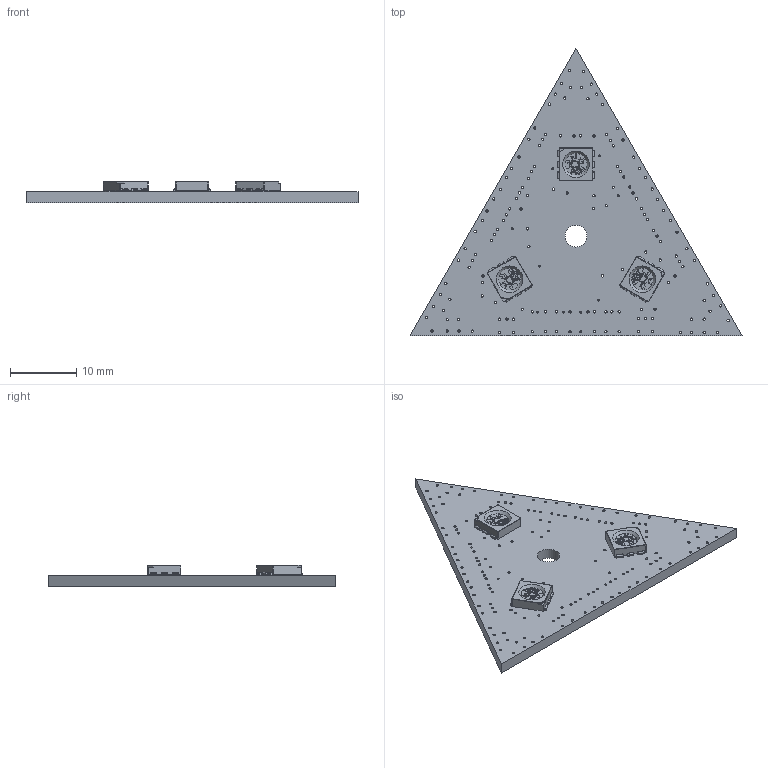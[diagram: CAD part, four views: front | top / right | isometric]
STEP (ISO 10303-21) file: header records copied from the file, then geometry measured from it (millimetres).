
FILE_DESCRIPTION(/* description */ (''),/* implementation_level */ '2;1');
FILE_NAME(/* name */ 'nled-triangle-ap102-pixel-panel-v1b v3.step',/* time_stamp */ '2023-04-13T13:40:29-05:00',/* author */ (''),/* organization */ (''),/* preprocessor_version */ 'ST-DEVELOPER v19.2',/* originating_system */ 'Autodesk Translation Framework v12.4.0.73',/* authorisation */ '');
FILE_SCHEMA (('AUTOMOTIVE_DESIGN { 1 0 10303 214 3 1 1 }'));
Length unit declared in the file: millimetre
Products named in the file (5): nled-triangle-ap102-pixel-panel-v1b; Board; Packages; APA102_5050 (1); APA102_5050
Assembly tree (5 placements, depth 3):
  nled-triangle-ap102-pixel-panel-v1b
    Board
    Packages
      APA102_5050 (1)
      APA102_5050  x2
Bounding box: 50 x 43.3 x 3.19 mm (x, y, z)
Volume: 1860.6 mm3; surface area: 2954 mm2
Topology: 4 solids, 4 shells, 1345 faces, 3786 edges, 2452 vertices
Faces by surface type: plane 650, cylinder 530, torus 138, bspline 24, cone 3
Full cylindrical faces by diameter (mm): 0.08 x39, 0.305 x14, 0.35 x146, 3.3 x1
Entity records: 35154 total; most frequent: CARTESIAN_POINT 8433, DIRECTION 5472, ORIENTED_EDGE 5376, EDGE_CURVE 2688, AXIS2_PLACEMENT_3D 1913, VERTEX_POINT 1744, LINE 1646, VECTOR 1646
